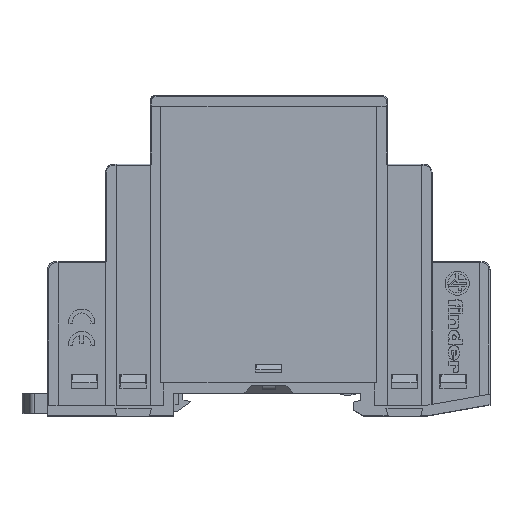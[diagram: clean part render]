
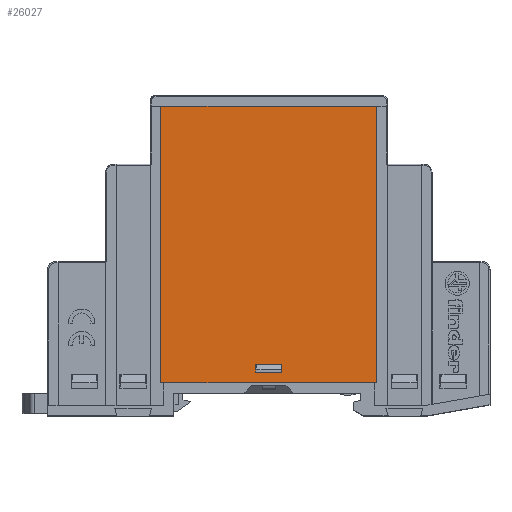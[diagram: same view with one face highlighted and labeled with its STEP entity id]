
A CAD part, top view. The second image highlights one B-rep face of the part: STEP entity #26027.
In plain terms, the highlighted planar face has unit normal (0, 0, 1).
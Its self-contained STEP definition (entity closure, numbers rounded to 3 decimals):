
#1785=ORIENTED_EDGE('',*,*,#8243,.T.);
#1786=ORIENTED_EDGE('',*,*,#8244,.F.);
#1787=ORIENTED_EDGE('',*,*,#8245,.F.);
#1788=ORIENTED_EDGE('',*,*,#8246,.F.);
#1789=ORIENTED_EDGE('',*,*,#8247,.T.);
#1790=ORIENTED_EDGE('',*,*,#8248,.F.);
#1791=ORIENTED_EDGE('',*,*,#7945,.F.);
#1792=ORIENTED_EDGE('',*,*,#8221,.F.);
#7945=EDGE_CURVE('',#12125,#12126,#15173,.T.);
#8221=EDGE_CURVE('',#12313,#12125,#15437,.T.);
#8243=EDGE_CURVE('',#12329,#12330,#15455,.T.);
#8244=EDGE_CURVE('',#12331,#12330,#15456,.T.);
#8245=EDGE_CURVE('',#12332,#12331,#15457,.T.);
#8246=EDGE_CURVE('',#12329,#12332,#15458,.T.);
#8247=EDGE_CURVE('',#12313,#12333,#15459,.T.);
#8248=EDGE_CURVE('',#12126,#12333,#15460,.T.);
#12125=VERTEX_POINT('',#41465);
#12126=VERTEX_POINT('',#41467);
#12313=VERTEX_POINT('',#42009);
#12329=VERTEX_POINT('',#42053);
#12330=VERTEX_POINT('',#42054);
#12331=VERTEX_POINT('',#42056);
#12332=VERTEX_POINT('',#42058);
#12333=VERTEX_POINT('',#42061);
#15173=LINE('',#41466,#18883);
#15437=LINE('',#42011,#19147);
#15455=LINE('',#42052,#19165);
#15456=LINE('',#42055,#19166);
#15457=LINE('',#42057,#19167);
#15458=LINE('',#42059,#19168);
#15459=LINE('',#42060,#19169);
#15460=LINE('',#42062,#19170);
#18883=VECTOR('',#34260,1000.);
#19147=VECTOR('',#34708,1000.);
#19165=VECTOR('',#34744,1000.);
#19166=VECTOR('',#34745,1000.);
#19167=VECTOR('',#34746,1000.);
#19168=VECTOR('',#34747,1000.);
#19169=VECTOR('',#34748,1000.);
#19170=VECTOR('',#34749,1000.);
#22479=EDGE_LOOP('',(#1785,#1786,#1787,#1788));
#22480=EDGE_LOOP('',(#1789,#1790,#1791,#1792));
#23772=FACE_BOUND('',#22479,.T.);
#23773=FACE_BOUND('',#22480,.T.);
#24987=PLANE('',#32326);
#26027=ADVANCED_FACE('',(#23772,#23773),#24987,.T.);
#32326=AXIS2_PLACEMENT_3D('',#42051,#34742,#34743);
#34260=DIRECTION('',(0.,-1.,0.));
#34708=DIRECTION('',(1.,0.,0.));
#34742=DIRECTION('',(0.,0.,1.));
#34743=DIRECTION('',(0.,1.,0.));
#34744=DIRECTION('',(0.,-1.,0.));
#34745=DIRECTION('',(1.,0.,0.));
#34746=DIRECTION('',(0.,-1.,0.));
#34747=DIRECTION('',(-1.,0.,0.));
#34748=DIRECTION('',(0.,-1.,0.));
#34749=DIRECTION('',(-1.,0.,0.));
#41465=CARTESIAN_POINT('',(20.5,5.5,0.));
#41466=CARTESIAN_POINT('',(20.5,5.5,0.));
#41467=CARTESIAN_POINT('',(20.5,-47.,0.));
#42009=CARTESIAN_POINT('',(-20.5,5.5,0.));
#42011=CARTESIAN_POINT('',(-20.5,5.5,0.));
#42051=CARTESIAN_POINT('',(-20.501,-47.001,0.));
#42052=CARTESIAN_POINT('',(2.5,-43.5,0.));
#42053=CARTESIAN_POINT('',(2.5,-43.5,0.));
#42054=CARTESIAN_POINT('',(2.5,-45.,0.));
#42055=CARTESIAN_POINT('',(-2.5,-45.,0.));
#42056=CARTESIAN_POINT('',(-2.5,-45.,0.));
#42057=CARTESIAN_POINT('',(-2.5,-43.5,0.));
#42058=CARTESIAN_POINT('',(-2.5,-43.5,0.));
#42059=CARTESIAN_POINT('',(2.5,-43.5,0.));
#42060=CARTESIAN_POINT('',(-20.5,5.5,0.));
#42061=CARTESIAN_POINT('',(-20.5,-47.,0.));
#42062=CARTESIAN_POINT('',(20.5,-47.,0.));
